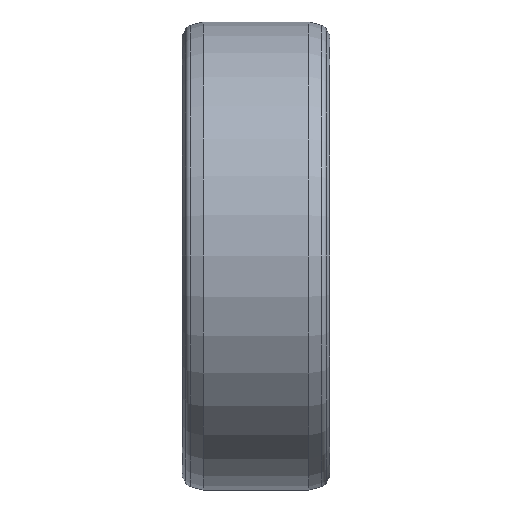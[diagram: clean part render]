
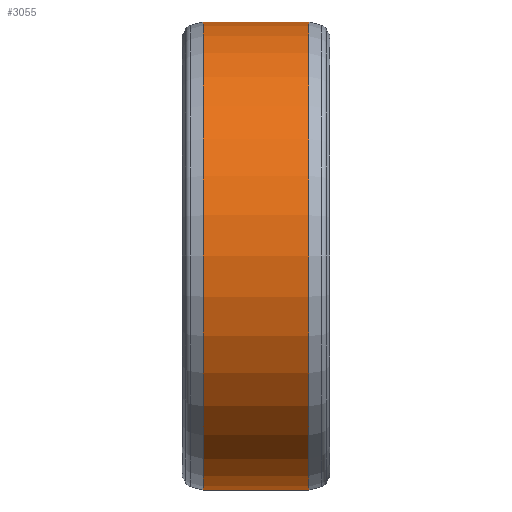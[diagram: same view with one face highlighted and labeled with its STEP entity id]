
A CAD part, front view. The second image highlights one B-rep face of the part: STEP entity #3055.
In plain terms, the highlighted cylindrical face has radius 9.5 mm (diameter 19 mm), a partial arc.
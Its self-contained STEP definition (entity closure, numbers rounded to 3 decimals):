
#308=CARTESIAN_POINT('',(-62.4,29.75,0.));
#309=DIRECTION('',(-1.,0.,0.));
#310=DIRECTION('',(0.,0.,-1.));
#311=AXIS2_PLACEMENT_3D('',#308,#309,#310);
#313=DIRECTION('',(1.,0.,0.));
#314=VECTOR('',#313,4.3);
#315=CARTESIAN_POINT('',(-62.4,29.75,-9.5));
#316=LINE('',#315,#314);
#317=DIRECTION('',(1.,0.,0.));
#318=VECTOR('',#317,4.3);
#319=CARTESIAN_POINT('',(-62.4,29.75,9.5));
#320=LINE('',#319,#318);
#392=CARTESIAN_POINT('',(-58.1,29.75,0.));
#393=DIRECTION('',(1.,0.,0.));
#394=DIRECTION('',(0.,0.,1.));
#395=AXIS2_PLACEMENT_3D('',#392,#393,#394);
#2655=CARTESIAN_POINT('',(-62.4,29.75,-9.5));
#2656=CARTESIAN_POINT('',(-58.1,29.75,-9.5));
#2657=VERTEX_POINT('',#2655);
#2658=VERTEX_POINT('',#2656);
#2663=CARTESIAN_POINT('',(-58.1,29.75,9.5));
#2664=VERTEX_POINT('',#2663);
#2693=CARTESIAN_POINT('',(-62.4,29.75,9.5));
#2694=VERTEX_POINT('',#2693);
#3041=CARTESIAN_POINT('',(-60.25,29.75,0.));
#3042=DIRECTION('',(-1.,0.,0.));
#3043=DIRECTION('',(0.,0.,1.));
#3044=AXIS2_PLACEMENT_3D('',#3041,#3042,#3043);
#3045=CYLINDRICAL_SURFACE('',#3044,9.5);
#3047=ORIENTED_EDGE('',*,*,#3046,.F.);
#3048=ORIENTED_EDGE('',*,*,#3033,.T.);
#3050=ORIENTED_EDGE('',*,*,#3049,.T.);
#3052=ORIENTED_EDGE('',*,*,#3051,.T.);
#3053=EDGE_LOOP('',(#3047,#3048,#3050,#3052));
#3054=FACE_OUTER_BOUND('',#3053,.F.);
#3055=ADVANCED_FACE('',(#3054),#3045,.T.);
#312=CIRCLE('',#311,9.5);
#396=CIRCLE('',#395,9.5);
#3033=EDGE_CURVE('',#2657,#2694,#312,.T.);
#3046=EDGE_CURVE('',#2657,#2658,#316,.T.);
#3049=EDGE_CURVE('',#2694,#2664,#320,.T.);
#3051=EDGE_CURVE('',#2664,#2658,#396,.T.);
